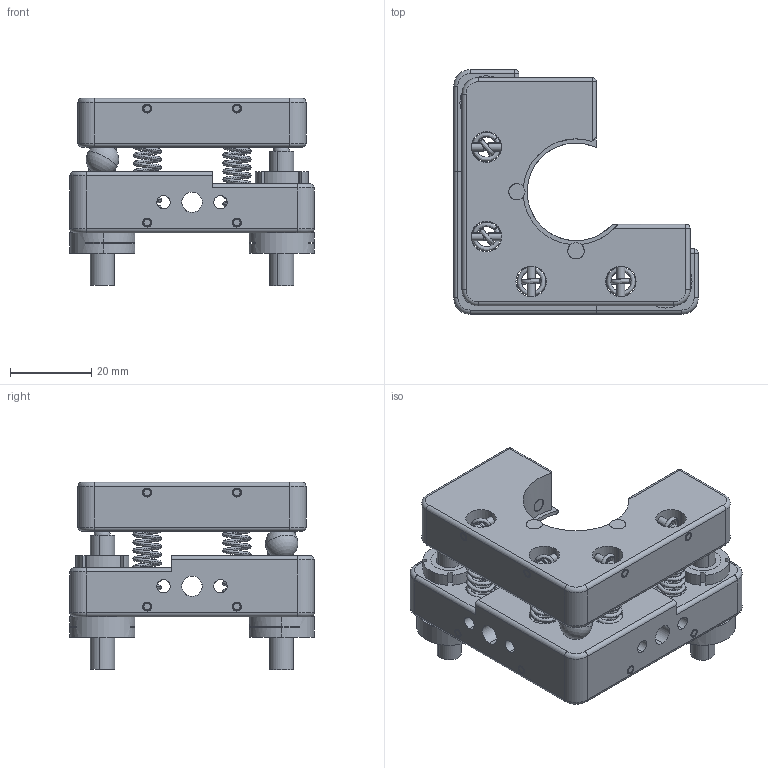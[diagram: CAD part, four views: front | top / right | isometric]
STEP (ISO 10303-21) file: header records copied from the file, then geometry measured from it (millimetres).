
FILE_DESCRIPTION (( 'STEP AP203' ), '1' );
FILE_NAME ('7MM1625謗峎覃淕噩殤.STEP', '2019-10-22T06:01:01', ( '' ), ( '' ), 'SwSTEP 2.0', 'SolidWorks 2014', '' );
FILE_SCHEMA (( 'CONFIG_CONTROL_DESIGN' ));
Length unit declared in the file: millimetre
Products named in the file (1): 7MM1625謗峎覃淕噩殤
Bounding box: 60 x 60 x 46.01 mm (x, y, z)
Surface area: 23610.2 mm2 (no closed solid volume)
Topology: 0 solids, 40 shells, 375 faces, 1044 edges, 659 vertices
Faces by surface type: cylinder 166, plane 97, torus 44, bspline 32, cone 22, sphere 14
Entity records: 23791 total; most frequent: CARTESIAN_POINT 14300, DIRECTION 2086, ORIENTED_EDGE 1786, EDGE_CURVE 1003, AXIS2_PLACEMENT_3D 842, VERTEX_POINT 650, CIRCLE 498, EDGE_LOOP 447
